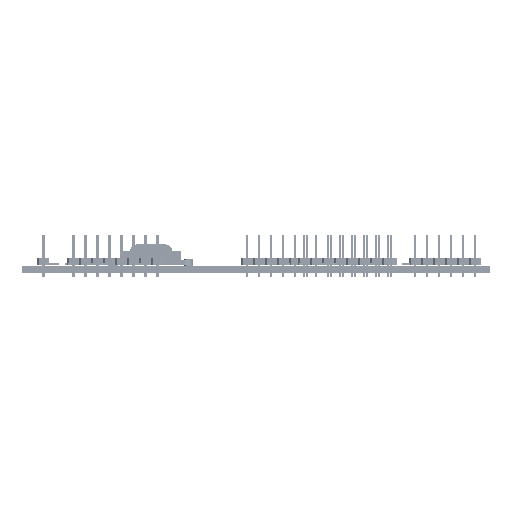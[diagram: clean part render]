
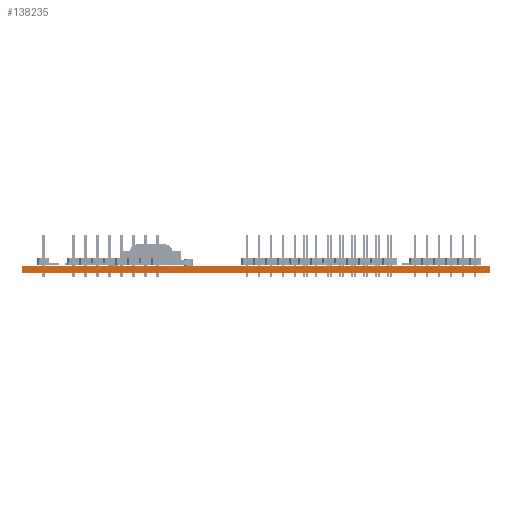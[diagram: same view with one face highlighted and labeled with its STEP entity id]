
A CAD part, front view. The second image highlights one B-rep face of the part: STEP entity #138235.
In plain terms, the highlighted planar face has unit normal (0, -1, 0).
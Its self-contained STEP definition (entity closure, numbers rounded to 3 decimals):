
#138235 = ADVANCED_FACE('',(#138236),#138270,.T.);
#138236 = FACE_BOUND('',#138237,.T.);
#138237 = EDGE_LOOP('',(#138238,#138248,#138256,#138264));
#138238 = ORIENTED_EDGE('',*,*,#138239,.T.);
#138239 = EDGE_CURVE('',#138240,#138242,#138244,.T.);
#138240 = VERTEX_POINT('',#138241);
#138241 = CARTESIAN_POINT('',(190.5,-140.97,0.));
#138242 = VERTEX_POINT('',#138243);
#138243 = CARTESIAN_POINT('',(190.5,-140.97,1.51));
#138244 = LINE('',#138245,#138246);
#138245 = CARTESIAN_POINT('',(190.5,-140.97,0.));
#138246 = VECTOR('',#138247,1.);
#138247 = DIRECTION('',(0.,0.,1.));
#138248 = ORIENTED_EDGE('',*,*,#138249,.T.);
#138249 = EDGE_CURVE('',#138242,#138250,#138252,.T.);
#138250 = VERTEX_POINT('',#138251);
#138251 = CARTESIAN_POINT('',(91.44,-140.97,1.51));
#138252 = LINE('',#138253,#138254);
#138253 = CARTESIAN_POINT('',(190.5,-140.97,1.51));
#138254 = VECTOR('',#138255,1.);
#138255 = DIRECTION('',(-1.,0.,0.));
#138256 = ORIENTED_EDGE('',*,*,#138257,.F.);
#138257 = EDGE_CURVE('',#138258,#138250,#138260,.T.);
#138258 = VERTEX_POINT('',#138259);
#138259 = CARTESIAN_POINT('',(91.44,-140.97,0.));
#138260 = LINE('',#138261,#138262);
#138261 = CARTESIAN_POINT('',(91.44,-140.97,0.));
#138262 = VECTOR('',#138263,1.);
#138263 = DIRECTION('',(0.,0.,1.));
#138264 = ORIENTED_EDGE('',*,*,#138265,.F.);
#138265 = EDGE_CURVE('',#138240,#138258,#138266,.T.);
#138266 = LINE('',#138267,#138268);
#138267 = CARTESIAN_POINT('',(190.5,-140.97,0.));
#138268 = VECTOR('',#138269,1.);
#138269 = DIRECTION('',(-1.,0.,0.));
#138270 = PLANE('',#138271);
#138271 = AXIS2_PLACEMENT_3D('',#138272,#138273,#138274);
#138272 = CARTESIAN_POINT('',(190.5,-140.97,0.));
#138273 = DIRECTION('',(0.,-1.,0.));
#138274 = DIRECTION('',(-1.,0.,0.));
